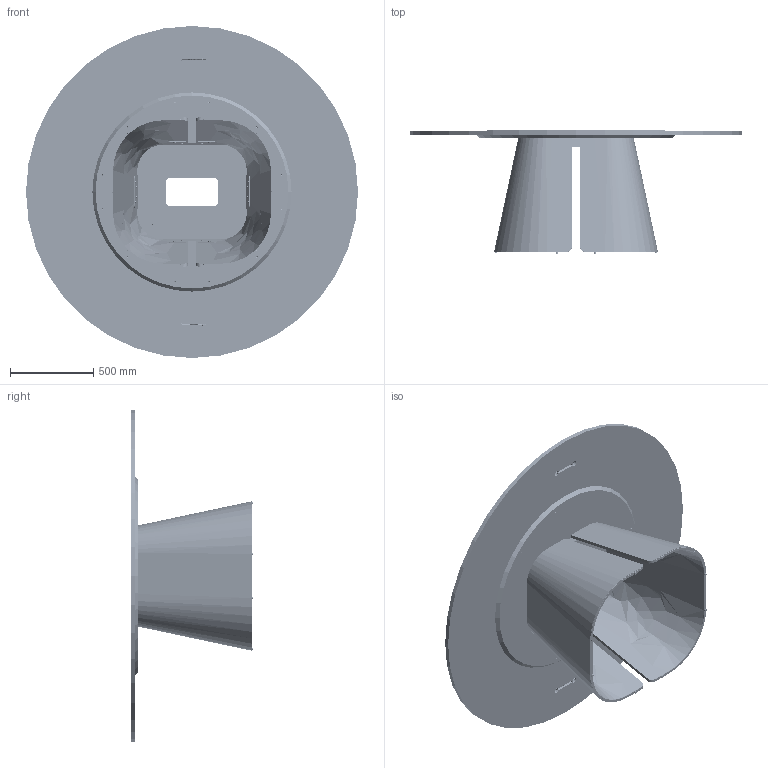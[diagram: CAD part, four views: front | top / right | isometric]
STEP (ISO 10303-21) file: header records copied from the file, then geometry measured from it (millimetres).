
FILE_DESCRIPTION (( 'STEP AP214' ), '1' );
FILE_NAME ('Alta Ø2000mm Boardroom Table.STEP', '2024-05-14T13:11:33', ( '' ), ( '' ), 'SwSTEP 2.0', 'SolidWorks 2023', '' );
FILE_SCHEMA (( 'AUTOMOTIVE_DESIGN' ));
Length unit declared in the file: millimetre
Products named in the file (23): socket countersunk head screw_bsi-Craig-SurfacePro_2691180; 3351032_3351032; socket countersunk head screw_bsi-Precision5820-1-2_1901310; 747 1003_747 1003; 747 0100_0110_747 0100; 3351000_3351000; 747 0017_0029_747 0019; 747 1100_1110_747 1100; SSBF-M8-16-10_9; 747 1111_1120_747 1113; 711_0413; 747 1011_1014_747 1011; 747 0004+0032_747 0004; Alta Ø2000mm Boardroom Table; countersunk flat head cross recess screw_bsi_11_BS EN ISO 7046-1 - M5 x 6 - Z - 6N; 747 0006_0007_747 0006; LOW011_LOW011; socket countersunk head screw_bsi-Craig-SurfacePro_1901150; 747 0001_747 0001; 747 1001_747 1001; 262_96_222; 3351030_3351030; 747 1021_1030_747 1023
Assembly tree (91 placements, depth 6):
  Alta Ø2000mm Boardroom Table
    747 1100_1110_747 1100
      747 1011_1014_747 1011
        747 1003_747 1003  x2
          747 1001_747 1001
            747 0001_747 0001
            3351032_3351032  x8
            3351000_3351000  x5
          747 0100_0110_747 0100
          LOW011_LOW011
          socket countersunk head screw_bsi-Craig-SurfacePro_1901150
        747 0004+0032_747 0004
        SSBF-M8-16-10_9  x16
      747 0006_0007_747 0006
      socket countersunk head screw_bsi-Craig-SurfacePro_2691180  x8
    747 1111_1120_747 1113
      747 1021_1030_747 1023  x2
        747 0017_0029_747 0019
        3351030_3351030
      262_96_222  x6
    711_0413  x2
    socket countersunk head screw_bsi-Precision5820-1-2_1901310  x14
    countersunk flat head cross recess screw_bsi_11_BS EN ISO 7046-1 - M5 x 6 - Z - 6N  x4
Bounding box: 2000 x 739 x 2000 mm (x, y, z)
Volume: 128562359.7 mm3; surface area: 13561878.7 mm2
Topology: 146 solids, 146 shells, 5495 faces, 12897 edges, 7770 vertices
Faces by surface type: plane 1916, cylinder 1912, cone 1419, bspline 190, torus 52, sphere 6
Full cylindrical faces by diameter (mm): 4.2 x4, 5 x40, 5.5 x14, 6 x1202, 7 x28, 8 x274, 9.3 x4, 9.43 x10, 10 x12, 11 x32, 11.34 x22, 12 x26, 13.2 x16, 15 x14
Entity records: 41382 total; most frequent: CARTESIAN_POINT 22372, DIRECTION 3957, ORIENTED_EDGE 3190, EDGE_CURVE 1595, AXIS2_PLACEMENT_3D 1538, EDGE_LOOP 1269, VERTEX_POINT 1168, FACE_OUTER_BOUND 943
